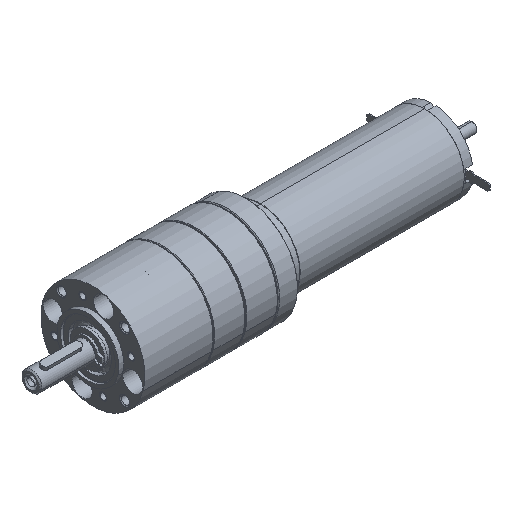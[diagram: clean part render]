
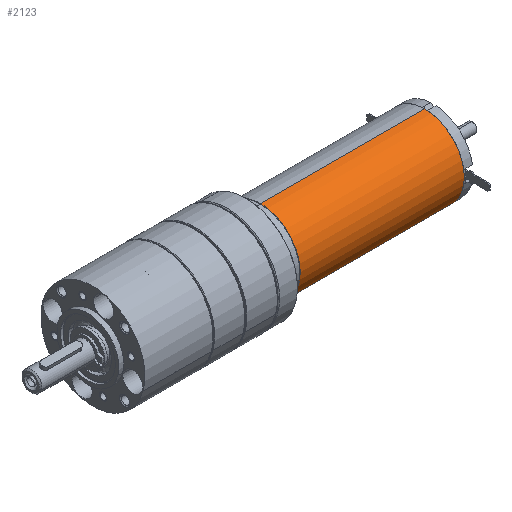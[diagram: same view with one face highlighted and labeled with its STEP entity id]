
A CAD part, isometric view. The second image highlights one B-rep face of the part: STEP entity #2123.
In plain terms, the highlighted cylindrical face has radius 16 mm (diameter 32 mm), a partial arc.
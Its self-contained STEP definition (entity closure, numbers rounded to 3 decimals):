
#559 = VECTOR ( 'NONE', #80464, 1000. ) ;
#1658 = DIRECTION ( 'NONE',  ( 1., 0., 0. ) ) ;
#2123 = ADVANCED_FACE ( 'NONE', ( #16363 ), #25237, .T. ) ;
#5040 = CIRCLE ( 'NONE', #69887, 16. ) ;
#6377 = LINE ( 'NONE', #43508, #71639 ) ;
#11203 = EDGE_CURVE ( 'NONE', #56631, #28646, #6377, .T. ) ;
#15089 = ORIENTED_EDGE ( 'NONE', *, *, #52343, .T. ) ;
#15295 = ORIENTED_EDGE ( 'NONE', *, *, #46147, .T. ) ;
#16363 = FACE_OUTER_BOUND ( 'NONE', #24640, .T. ) ;
#18367 = DIRECTION ( 'NONE',  ( -1., 0., 0. ) ) ;
#24640 = EDGE_LOOP ( 'NONE', ( #66302, #15295, #81736, #15089 ) ) ;
#25237 = CYLINDRICAL_SURFACE ( 'NONE', #60802, 16. ) ;
#28043 = DIRECTION ( 'NONE',  ( -1., 0., 0. ) ) ;
#28646 = VERTEX_POINT ( 'NONE', #33722 ) ;
#29816 = CARTESIAN_POINT ( 'NONE',  ( 38.9, 0., -16. ) ) ;
#31060 = CARTESIAN_POINT ( 'NONE',  ( 5.8, 0., -16. ) ) ;
#32420 = CARTESIAN_POINT ( 'NONE',  ( 72., 0., -16. ) ) ;
#33438 = AXIS2_PLACEMENT_3D ( 'NONE', #65877, #28043, #72293 ) ;
#33722 = CARTESIAN_POINT ( 'NONE',  ( 5.8, 0., 16. ) ) ;
#37453 = CIRCLE ( 'NONE', #33438, 16. ) ;
#39490 = CARTESIAN_POINT ( 'NONE',  ( 5.8, 0., 0. ) ) ;
#42072 = CARTESIAN_POINT ( 'NONE',  ( 72., 0., 16. ) ) ;
#43508 = CARTESIAN_POINT ( 'NONE',  ( 38.9, 0., 16. ) ) ;
#45831 = DIRECTION ( 'NONE',  ( 0., 0., 1. ) ) ;
#46147 = EDGE_CURVE ( 'NONE', #58044, #56631, #37453, .T. ) ;
#52343 = EDGE_CURVE ( 'NONE', #28646, #69541, #5040, .T. ) ;
#56631 = VERTEX_POINT ( 'NONE', #42072 ) ;
#58044 = VERTEX_POINT ( 'NONE', #32420 ) ;
#60802 = AXIS2_PLACEMENT_3D ( 'NONE', #73718, #80099, #67569 ) ;
#65777 = LINE ( 'NONE', #29816, #559 ) ;
#65877 = CARTESIAN_POINT ( 'NONE',  ( 72., 0., 0. ) ) ;
#66302 = ORIENTED_EDGE ( 'NONE', *, *, #72577, .F. ) ;
#67569 = DIRECTION ( 'NONE',  ( 0., 0., 1. ) ) ;
#69541 = VERTEX_POINT ( 'NONE', #31060 ) ;
#69887 = AXIS2_PLACEMENT_3D ( 'NONE', #39490, #1658, #45831 ) ;
#71639 = VECTOR ( 'NONE', #18367, 1000. ) ;
#72293 = DIRECTION ( 'NONE',  ( 0., 0., 1. ) ) ;
#72577 = EDGE_CURVE ( 'NONE', #58044, #69541, #65777, .T. ) ;
#73718 = CARTESIAN_POINT ( 'NONE',  ( 38.9, 0., 0. ) ) ;
#80099 = DIRECTION ( 'NONE',  ( -1., 0., 0. ) ) ;
#80464 = DIRECTION ( 'NONE',  ( -1., 0., 0. ) ) ;
#81736 = ORIENTED_EDGE ( 'NONE', *, *, #11203, .T. ) ;
